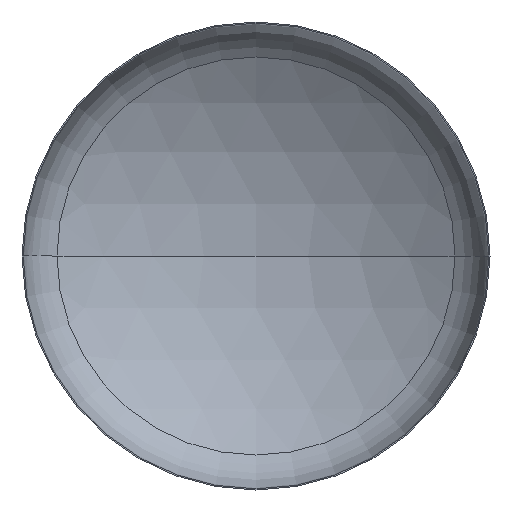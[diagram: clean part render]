
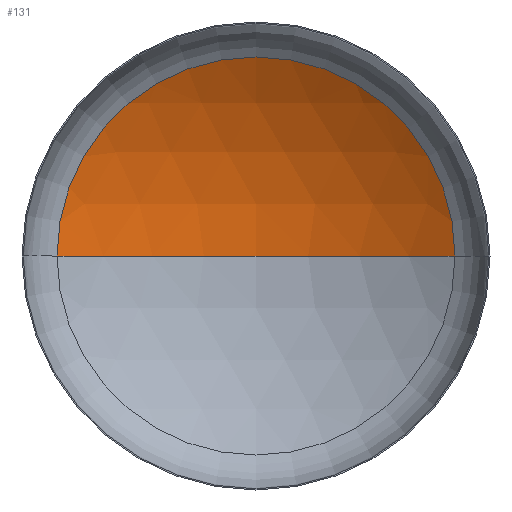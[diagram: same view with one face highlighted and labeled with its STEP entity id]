
A CAD part, front view. The second image highlights one B-rep face of the part: STEP entity #131.
In plain terms, the highlighted spherical face has radius 2880 mm.
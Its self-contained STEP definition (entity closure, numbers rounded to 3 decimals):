
#4 = AXIS2_PLACEMENT_3D ( 'NONE', #382, #194, #407 ) ;
#6 = AXIS2_PLACEMENT_3D ( 'NONE', #343, #264, #177 ) ;
#7 = CIRCLE ( 'NONE', #4, 2880. ) ;
#19 = DIRECTION ( 'NONE',  ( -1., 0., 0. ) ) ;
#24 = ORIENTED_EDGE ( 'NONE', *, *, #137, .T. ) ;
#33 = ORIENTED_EDGE ( 'NONE', *, *, #348, .T. ) ;
#49 = AXIS2_PLACEMENT_3D ( 'NONE', #164, #191, #210 ) ;
#52 = AXIS2_PLACEMENT_3D ( 'NONE', #384, #244, #19 ) ;
#70 = VERTEX_POINT ( 'NONE', #259 ) ;
#77 = ORIENTED_EDGE ( 'NONE', *, *, #350, .F. ) ;
#102 = VERTEX_POINT ( 'NONE', #253 ) ;
#111 = VERTEX_POINT ( 'NONE', #239 ) ;
#121 = EDGE_LOOP ( 'NONE', ( #77, #33, #24 ) ) ;
#131 = ADVANCED_FACE ( 'NONE', ( #389 ), #141, .F. ) ;
#137 = EDGE_CURVE ( 'NONE', #111, #70, #274, .T. ) ;
#141 = SPHERICAL_SURFACE ( 'NONE', #52, 2880. ) ;
#164 = CARTESIAN_POINT ( 'NONE',  ( 0., 500.078, 0. ) ) ;
#177 = DIRECTION ( 'NONE',  ( -1., 0., 0. ) ) ;
#191 = DIRECTION ( 'NONE',  ( 0., -1., 0. ) ) ;
#194 = DIRECTION ( 'NONE',  ( 0., 0., 1. ) ) ;
#210 = DIRECTION ( 'NONE',  ( 1., 0., 0. ) ) ;
#237 = CIRCLE ( 'NONE', #6, 2880. ) ;
#239 = CARTESIAN_POINT ( 'NONE',  ( 1531.045, 500.078, 0. ) ) ;
#244 = DIRECTION ( 'NONE',  ( 0., 0., -1. ) ) ;
#253 = CARTESIAN_POINT ( 'NONE',  ( 0., 940.754, 0. ) ) ;
#259 = CARTESIAN_POINT ( 'NONE',  ( -1531.045, 500.078, 0. ) ) ;
#264 = DIRECTION ( 'NONE',  ( 0., 0., -1. ) ) ;
#274 = CIRCLE ( 'NONE', #49, 1531.045 ) ;
#343 = CARTESIAN_POINT ( 'NONE',  ( 0., -1939.246, 0. ) ) ;
#348 = EDGE_CURVE ( 'NONE', #102, #111, #237, .T. ) ;
#350 = EDGE_CURVE ( 'NONE', #102, #70, #7, .T. ) ;
#382 = CARTESIAN_POINT ( 'NONE',  ( 0., -1939.246, 0. ) ) ;
#384 = CARTESIAN_POINT ( 'NONE',  ( 0., -1939.246, 0. ) ) ;
#389 = FACE_OUTER_BOUND ( 'NONE', #121, .T. ) ;
#407 = DIRECTION ( 'NONE',  ( 1., 0., 0. ) ) ;
